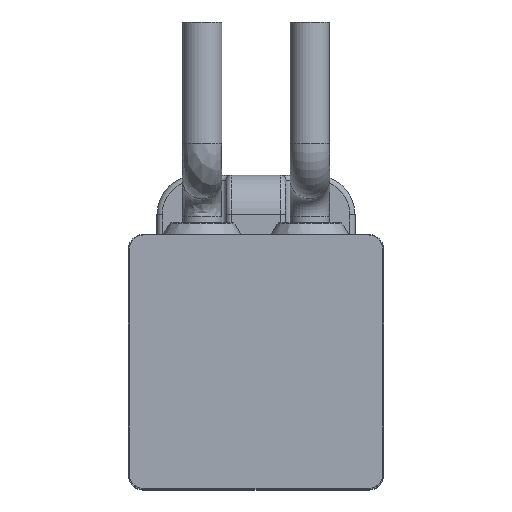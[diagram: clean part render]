
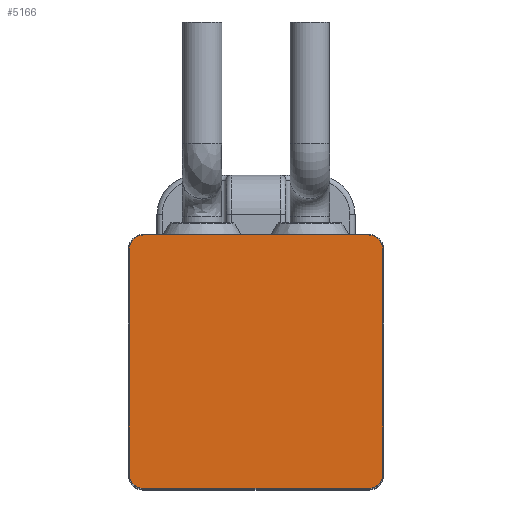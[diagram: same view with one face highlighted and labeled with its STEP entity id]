
A CAD part, top view. The second image highlights one B-rep face of the part: STEP entity #5166.
In plain terms, the highlighted planar face has unit normal (0, 0, 1).
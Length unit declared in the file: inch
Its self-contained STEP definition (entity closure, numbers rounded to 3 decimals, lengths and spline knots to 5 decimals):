
#1866=CARTESIAN_POINT('',(-0.71,0.8,0.0625));
#1867=VERTEX_POINT('',#1866);
#1874=CARTESIAN_POINT('',(0.71,0.8,0.0625));
#1875=VERTEX_POINT('',#1874);
#1876=CARTESIAN_POINT('',(-0.71,0.8,0.0625));
#1877=DIRECTION('',(1.0,0.0,0.0));
#1878=VECTOR('',#1877,1.42);
#1879=LINE('',#1876,#1878);
#1880=EDGE_CURVE('',#1867,#1875,#1879,.T.);
#4927=CARTESIAN_POINT('',(0.8,0.71,0.0625));
#4928=VERTEX_POINT('',#4927);
#4935=CARTESIAN_POINT('',(0.8,-0.71,0.0625));
#4936=VERTEX_POINT('',#4935);
#4937=CARTESIAN_POINT('',(0.8,0.71,0.0625));
#4938=DIRECTION('',(0.0,-1.0,0.0));
#4939=VECTOR('',#4938,1.42);
#4940=LINE('',#4937,#4939);
#4941=EDGE_CURVE('',#4928,#4936,#4940,.T.);
#4959=CARTESIAN_POINT('',(0.71,0.71,0.0625));
#4960=DIRECTION('',(0.0,0.0,-1.));
#4961=DIRECTION('',(0.707,0.707,0.0));
#4962=AXIS2_PLACEMENT_3D('',#4959,#4960,#4961);
#4963=CIRCLE('',#4962,0.09);
#4964=EDGE_CURVE('',#1875,#4928,#4963,.T.);
#5000=CARTESIAN_POINT('',(-0.8,0.71,0.0625));
#5001=VERTEX_POINT('',#5000);
#5008=CARTESIAN_POINT('',(-0.71,0.71,0.0625));
#5009=DIRECTION('',(0.0,0.0,-1.));
#5010=DIRECTION('',(-0.707,0.707,0.0));
#5011=AXIS2_PLACEMENT_3D('',#5008,#5009,#5010);
#5012=CIRCLE('',#5011,0.09);
#5013=EDGE_CURVE('',#5001,#1867,#5012,.T.);
#5042=CARTESIAN_POINT('',(0.71,-0.8,0.0625));
#5043=VERTEX_POINT('',#5042);
#5050=CARTESIAN_POINT('',(-0.71,-0.8,0.0625));
#5051=VERTEX_POINT('',#5050);
#5052=CARTESIAN_POINT('',(0.71,-0.8,0.0625));
#5053=DIRECTION('',(-1.0,0.0,0.0));
#5054=VECTOR('',#5053,1.42);
#5055=LINE('',#5052,#5054);
#5056=EDGE_CURVE('',#5043,#5051,#5055,.T.);
#5073=CARTESIAN_POINT('',(-0.8,-0.71,0.0625));
#5074=VERTEX_POINT('',#5073);
#5081=CARTESIAN_POINT('',(-0.8,-0.71,0.0625));
#5082=DIRECTION('',(0.0,1.0,0.0));
#5083=VECTOR('',#5082,1.42);
#5084=LINE('',#5081,#5083);
#5085=EDGE_CURVE('',#5074,#5001,#5084,.T.);
#5098=CARTESIAN_POINT('',(-0.71,-0.71,0.0625));
#5099=DIRECTION('',(0.0,0.0,-1.));
#5100=DIRECTION('',(-0.707,-0.707,0.0));
#5101=AXIS2_PLACEMENT_3D('',#5098,#5099,#5100);
#5102=CIRCLE('',#5101,0.09);
#5103=EDGE_CURVE('',#5051,#5074,#5102,.T.);
#5116=CARTESIAN_POINT('',(0.71,-0.71,0.0625));
#5117=DIRECTION('',(0.0,0.0,-1.));
#5118=DIRECTION('',(0.707,-0.707,0.0));
#5119=AXIS2_PLACEMENT_3D('',#5116,#5117,#5118);
#5120=CIRCLE('',#5119,0.09);
#5121=EDGE_CURVE('',#4936,#5043,#5120,.T.);
#5151=CARTESIAN_POINT('',(0.,0.,0.0625));
#5152=DIRECTION('',(0.0,0.0,1.0));
#5153=DIRECTION('',(1.0,0.0,0.0));
#5154=AXIS2_PLACEMENT_3D('',#5151,#5152,#5153);
#5155=PLANE('',#5154);
#5156=ORIENTED_EDGE('',*,*,#5103,.F.);
#5157=ORIENTED_EDGE('',*,*,#5056,.F.);
#5158=ORIENTED_EDGE('',*,*,#5121,.F.);
#5159=ORIENTED_EDGE('',*,*,#4941,.F.);
#5160=ORIENTED_EDGE('',*,*,#4964,.F.);
#5161=ORIENTED_EDGE('',*,*,#1880,.F.);
#5162=ORIENTED_EDGE('',*,*,#5013,.F.);
#5163=ORIENTED_EDGE('',*,*,#5085,.F.);
#5164=EDGE_LOOP('',(#5156,#5157,#5158,#5159,#5160,#5161,#5162,#5163));
#5165=FACE_OUTER_BOUND('',#5164,.T.);
#5166=ADVANCED_FACE('',(#5165),#5155,.T.);
